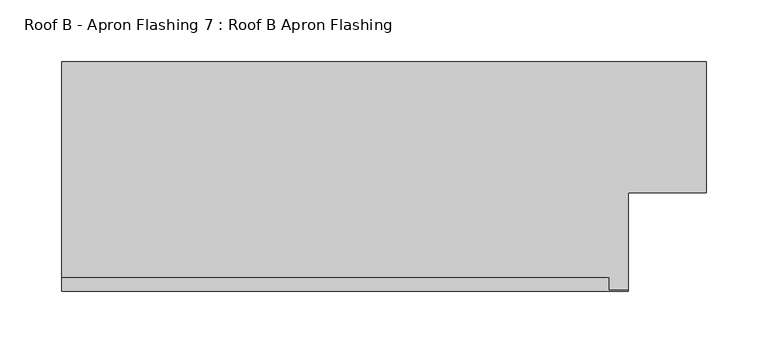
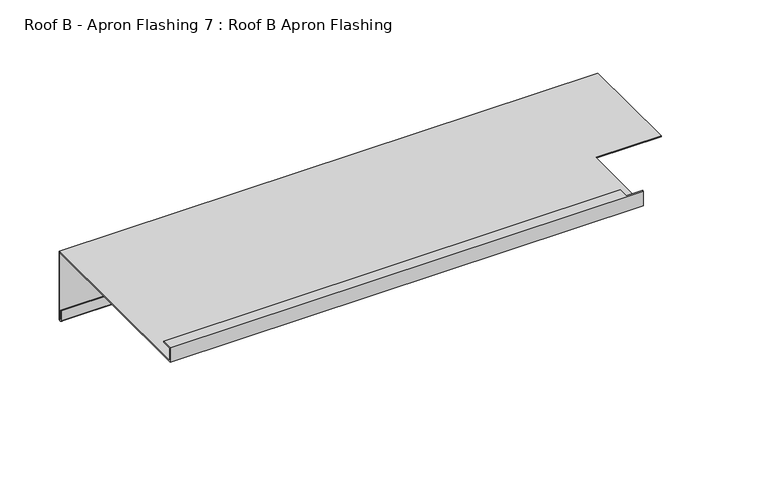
"""IFC4 building model written with IfcOpenShell, lengths in millimetres: proxy geometry, Roof B - Apron Flashing 7 : Roof B Apron Flashing."""

from ifc_helpers import new_model, si_unit, frame, origin, place, context, project, spatial, polyline, circle_curve, source, transform, mapped, element, save
from ifc_brep_helpers import plane_surface, cylinder_surface, revolved_surface, advanced_brep


def roof_b_apron_flashing_7_roof_b_apron_flashing_a06f71b5(model_context):
    return source(origin(), model_context, "Body", "AdvancedBrep", [
        advanced_brep(
        [(17546.1944801, -26541.7391961, -986.662203), (17546.1944801, -26541.7391961, -1055.0764166), (17546.1944801, -26542.7391961, -1055.0764166), (17546.1944801, -26542.7391961, -1045.1233066), (17546.1944801, -26543.7391961, -1045.1233066), (17546.1944801, -26543.7391961, -1055.0764166), (17546.1944801, -26540.7391961, -1055.0764166), (17546.1944801, -26540.7391961, -985.662203), (17546.1944801, -26647.1823445, -985.662203), (17546.1944801, -26647.1823445, -986.662203), (17022.8825627, -26540.7391961, -985.662203), (17022.8825627, -26540.7391961, -1055.0764166), (17022.8825627, -26543.7391961, -1055.0764166), (17022.8825627, -26543.7391961, -1045.1233066), (17022.8825627, -26542.7391961, -1045.1233066), (17022.8825627, -26542.7391961, -1055.0764166), (17022.8825627, -26541.7391961, -1055.0764166), (17022.8825627, -26541.7391961, -986.662203), (17022.8825627, -26727.1803264, -986.662203), (17022.8825627, -26727.1803264, -971.662203), (17022.8825627, -26716.1420138, -971.662203), (17022.8825627, -26716.1420138, -972.662203), (17022.8825627, -26726.1803264, -972.662203), (17022.8825627, -26726.1803264, -985.662203), (17482.8825627, -26726.1803264, -985.662203), (17482.8825627, -26647.1823445, -985.662203), (17482.8825627, -26647.1823445, -986.662203), (17482.8825627, -26727.1803264, -986.662203), (17466.7549871, -26726.1803264, -972.662203), (17466.7549871, -26726.1803264, -971.662203), (17482.8825627, -26726.1803264, -971.662203), (17466.7549871, -26716.1420138, -972.662203), (17466.7549871, -26716.1420138, -971.662203), (17482.8825627, -26727.1803264, -971.662203)],
        [
            (0, 1),
            (1, 2, circle_curve(frame((17546.1944801, -26542.2391961, -1055.0764166), z_axis=(-1.0, 0.0, 0.0), x_axis=(0.0, 0.0, 1.0)), 0.5)),
            (2, 3),
            (3, 4),
            (4, 5),
            (5, 6, circle_curve(frame((17546.1944801, -26542.2391961, -1055.0764166), z_axis=(1.0, 0.0, 0.0), x_axis=(0.0, 0.0, 1.0)), 1.5)),
            (6, 7),
            (7, 8),
            (8, 9),
            (9, 0),
            (10, 11),
            (11, 12, circle_curve(frame((17022.8825627, -26542.2391961, -1055.0764166), z_axis=(-1.0, 0.0, 0.0), x_axis=(0.0, 0.0, 1.0)), 1.5)),
            (12, 13),
            (13, 14),
            (14, 15),
            (15, 16, circle_curve(frame((17022.8825627, -26542.2391961, -1055.0764166), z_axis=(1.0, 0.0, 0.0), x_axis=(0.0, 0.0, 1.0)), 0.5)),
            (16, 17),
            (17, 18),
            (18, 19),
            (19, 20),
            (20, 21),
            (21, 22),
            (22, 23),
            (23, 10),
            (23, 24),
            (24, 25),
            (25, 8),
            (7, 10),
            (17, 0),
            (9, 26),
            (26, 27),
            (27, 18),
            (16, 1),
            (6, 11),
            (22, 28),
            (28, 29),
            (29, 30),
            (30, 24),
            (21, 31),
            (31, 28),
            (20, 32),
            (32, 31),
            (19, 33),
            (33, 30),
            (29, 32),
            (27, 33),
            (15, 2),
            (14, 3),
            (13, 4),
            (12, 5),
            (26, 25),
        ],
        [
            plane_surface(frame((17546.1944801, -26735.2124196, -1042.7388515), z_axis=(1.0, 0.0, 0.0), x_axis=(0.0, 1.0, 0.0))),
            plane_surface(frame((17022.8825627, -26735.2124196, -1042.7388515), z_axis=(-1.0, 0.0, 0.0), x_axis=(0.0, 1.0, 0.0))),
            plane_surface(frame((17546.1944801, -26540.7391961, -985.662203), z_axis=(0.0, 0.0, 1.0), x_axis=(-1.0, 0.0, 0.0))),
            plane_surface(frame((17546.1944801, -26727.1803264, -986.662203), z_axis=(0.0, 0.0, -1.0), x_axis=(-1.0, 0.0, 0.0))),
            plane_surface(frame((17546.1944801, -26541.7391961, -986.662203), z_axis=(0.0, -1.0, 0.0), x_axis=(-1.0, 0.0, 0.0))),
            plane_surface(frame((17546.1944801, -26540.7391961, -1055.0764166), z_axis=(0.0, 1.0, 0.0), x_axis=(-1.0, 0.0, 0.0))),
            plane_surface(frame((17546.1944801, -26726.1803264, -985.662203), z_axis=(0.0, 1.0, 0.0), x_axis=(-1.0, 0.0, 0.0))),
            plane_surface(frame((17546.1944801, -26726.1803264, -972.662203), z_axis=(0.0, 0.0, -1.0), x_axis=(-1.0, 0.0, 0.0))),
            plane_surface(frame((17546.1944801, -26716.1420138, -972.662203), z_axis=(0.0, 1.0, 0.0), x_axis=(-1.0, 0.0, 0.0))),
            plane_surface(frame((17546.1944801, -26716.1420138, -971.662203), z_axis=(0.0, 0.0, 1.0), x_axis=(-1.0, 0.0, 0.0))),
            plane_surface(frame((17546.1944801, -26727.1803264, -971.662203), z_axis=(0.0, -1.0, 0.0), x_axis=(-1.0, 0.0, 0.0))),
            revolved_surface(polyline([(17022.8825627, -26542.2391961, -1054.5764166), (17546.1944801, -26542.2391961, -1054.5764166)]), (17546.1944801, -26542.2391961, -1055.0764166), (-1.0, 0.0, 0.0)),
            plane_surface(frame((17546.1944801, -26542.7391961, -1055.0764166), z_axis=(0.0, 1.0, 0.0), x_axis=(-1.0, 0.0, 0.0))),
            plane_surface(frame((17546.1944801, -26542.7391961, -1045.1233066), z_axis=(0.0, 0.0, 1.0), x_axis=(-1.0, 0.0, 0.0))),
            plane_surface(frame((17546.1944801, -26543.7391961, -1045.1233066), z_axis=(0.0, -1.0, 0.0), x_axis=(-1.0, 0.0, 0.0))),
            cylinder_surface(frame((17546.1944801, -26542.2391961, -1055.0764166), z_axis=(1.0, 0.0, 0.0), x_axis=(0.0, 0.0, 1.0)), 1.5),
            plane_surface(frame((17482.8825627, -26647.1823445, -1079.9089722), z_axis=(1.0, 0.0, 0.0), x_axis=(0.0, -0.9659258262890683, 0.25881904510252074))),
            plane_surface(frame((17482.8825627, -26647.1823445, -852.4830665), z_axis=(0.0, -1.0, 0.0), x_axis=(1.0, 0.0, 0.0))),
            plane_surface(frame((17466.7549871, -26726.1802757, -884.3834078), z_axis=(1.0, 0.0, 0.0), x_axis=(0.0, 0.0, -1.0))),
        ],
        [
            (0, [[1, 2, 3, 4, 5, 6, 7, 8, 9, 10]]),
            (1, [[11, 12, 13, 14, 15, 16, 17, 18, 19, 20, 21, 22, 23, 24]]),
            (2, [[-24, 25, 26, 27, -8, 28]]),
            (3, [[-18, 29, -10, 30, 31, 32]]),
            (4, [[-1, -29, -17, 33]]),
            (5, [[-7, 34, -11, -28]]),
            (6, [[-23, 35, 36, 37, 38, -25]]),
            (7, [[-22, 39, 40, -35]]),
            (8, [[-21, 41, 42, -39]]),
            (9, [[-20, 43, 44, -37, 45, -41]]),
            (10, [[-19, -32, 46, -43]]),
            (11, [[-2, -33, -16, 47]]),
            (12, [[-3, -47, -15, 48]]),
            (13, [[-4, -48, -14, 49]]),
            (14, [[-5, -49, -13, 50]]),
            (15, [[-6, -50, -12, -34]]),
            (16, [[51, -26, -38, -44, -46, -31]]),
            (17, [[-51, -30, -9, -27]]),
            (18, [[-36, -40, -42, -45]]),
        ],
    ),
    ])


if __name__ == "__main__":
    model = new_model("IFC4")
    model_context = context("Model", 3, world=origin())
    ifc_project = project(units=[si_unit("LENGTHUNIT", "METRE", prefix="MILLI")], contexts=[model_context])
    site = spatial("IfcSite", under=ifc_project)
    building = spatial("IfcBuilding", under=site)
    placement = place(None, origin())
    roof_b_apron_flashing_7_roof_b_apron_flashing_shape = roof_b_apron_flashing_7_roof_b_apron_flashing_a06f71b5(model_context)
    element("IfcBuildingElementProxy", 1, Name="Roof B - Apron Flashing 7 : Roof B Apron Flashing", ObjectType="Roof B - Apron Flashing 7 : Roof B Apron Flashing", at=placement, inside=building, context=model_context, shape_type="MappedRepresentation", body=[
        mapped(roof_b_apron_flashing_7_roof_b_apron_flashing_shape, transform((0.0, 0.0, 0.0), x_axis=(1.0, 0.0, 0.0), y_axis=(0.0, 1.0, 0.0), z_axis=(0.0, 0.0, 1.0))),
    ])
    save(model, "model.ifc")
